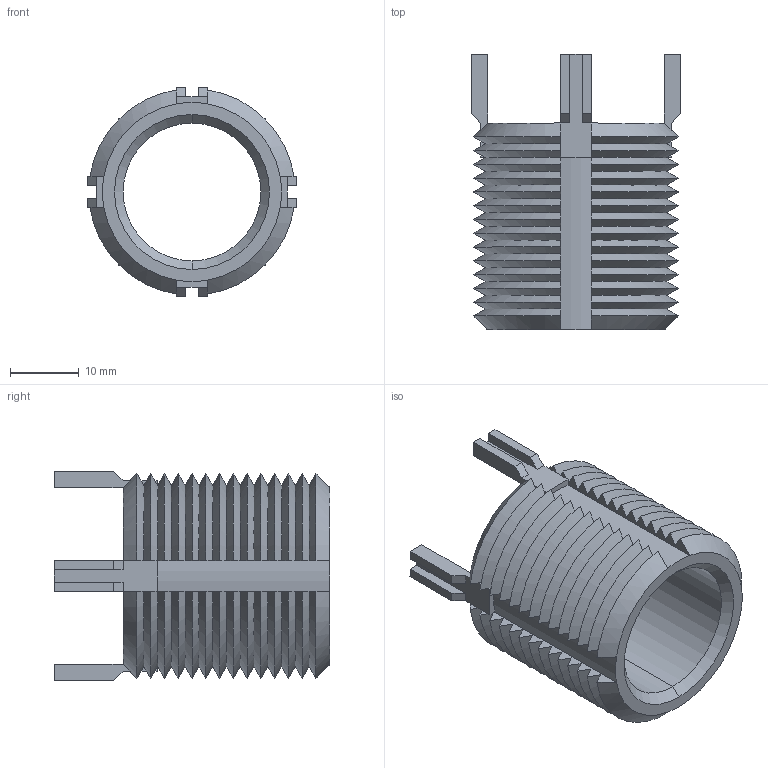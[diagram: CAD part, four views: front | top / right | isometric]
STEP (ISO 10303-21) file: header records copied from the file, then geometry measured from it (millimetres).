
FILE_DESCRIPTION (( 'STEP AP203' ), '1' );
FILE_NAME ('22002.W5730.step', '2020-01-04T21:36:59', ( '' ), ( '' ), 'SwSTEP 2.0', 'SolidWorks 2017', '' );
FILE_SCHEMA (( 'CONFIG_CONTROL_DESIGN' ));
Length unit declared in the file: millimetre
Products named in the file (1): 22002.W5730
Bounding box: 30.41 x 40 x 30.41 mm (x, y, z)
Volume: 9071.4 mm3; surface area: 7793.8 mm2
Topology: 1 solids, 1 shells, 212 faces, 562 edges, 352 vertices
Faces by surface type: cone 116, plane 90, cylinder 6
Entity records: 6811 total; most frequent: CARTESIAN_POINT 1895, ORIENTED_EDGE 1124, DIRECTION 864, EDGE_CURVE 562, VERTEX_POINT 352, AXIS2_PLACEMENT_3D 345, B_SPLINE_CURVE_WITH_KNOTS 256, EDGE_LOOP 214
